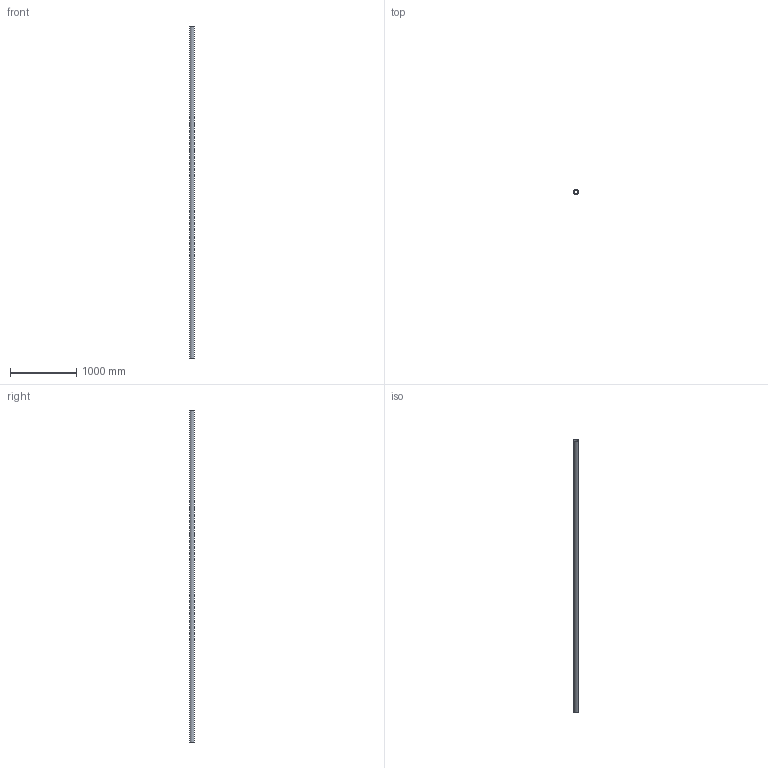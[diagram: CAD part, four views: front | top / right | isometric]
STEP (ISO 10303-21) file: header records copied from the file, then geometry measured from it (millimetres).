
FILE_DESCRIPTION(/* description */ (''),/* implementation_level */ '2;1');
FILE_NAME(/* name */ 'C:\Geberit-Teile\Export 2019\379.000.16.0\stp\365000.stp',/* time_stamp */ '2019-06-06T10:48:24+02:00',/* author */ ('JANAN'),/* organization */ (''),/* preprocessor_version */ 'ST-DEVELOPER v16.13',/* originating_system */ 'Autodesk Inventor 2018',/* authorisation */ '');
FILE_SCHEMA (('AUTOMOTIVE_DESIGN { 1 0 10303 214 3 1 1 }'));
Length unit declared in the file: millimetre
Products named in the file (1): Rohr PE-HD d75x3 L5000
Bounding box: 75 x 75 x 5000 mm (x, y, z)
Volume: 3392920.1 mm3; surface area: 2263303.9 mm2
Topology: 1 solids, 1 shells, 4 faces, 6 edges, 4 vertices
Faces by surface type: cylinder 2, plane 2
Full cylindrical faces by diameter (mm): 69 x1, 75 x1
Entity records: 131 total; most frequent: DIRECTION 18, CARTESIAN_POINT 13, AXIS2_PLACEMENT_3D 9, EDGE_LOOP 8, ORIENTED_EDGE 8, STYLED_ITEM 5, FACE_BOUND 4, FACE_OUTER_BOUND 4
